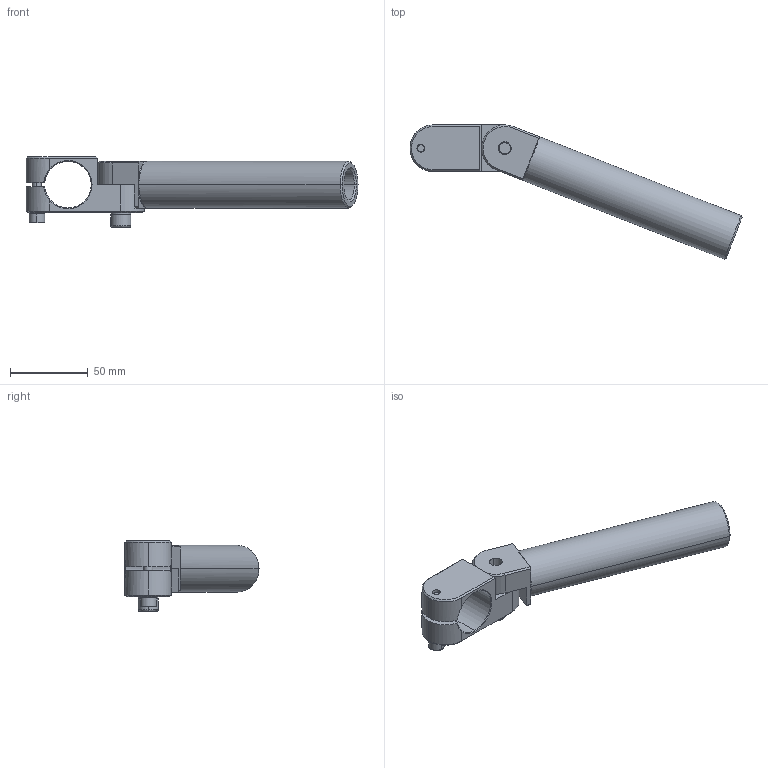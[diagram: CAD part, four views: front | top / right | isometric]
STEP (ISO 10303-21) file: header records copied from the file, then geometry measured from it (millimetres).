
FILE_DESCRIPTION (( 'STEP AP214' ), '1' );
FILE_NAME ('SEA-3030L140.STEP', '2019-11-11T03:08:47', ( '微软用户' ), ( '微软中国' ), 'SwSTEP 2.0', 'SolidWorks 2016', '' );
FILE_SCHEMA (( 'AUTOMOTIVE_DESIGN' ));
Length unit declared in the file: millimetre
Products named in the file (1): SEA-3030L140
Bounding box: 213.71 x 86.34 x 45.4 mm (x, y, z)
Volume: 112098 mm3; surface area: 41015.2 mm2
Topology: 6 solids, 6 shells, 520 faces, 1476 edges, 953 vertices
Faces by surface type: plane 437, cylinder 37, cone 26, bspline 20
Entity records: 25170 total; most frequent: CARTESIAN_POINT 5634, ORIENTED_EDGE 2920, DIRECTION 2913, EDGE_CURVE 1460, AXIS2_PLACEMENT_3D 988, VERTEX_POINT 953, VECTOR 937, LINE 937
